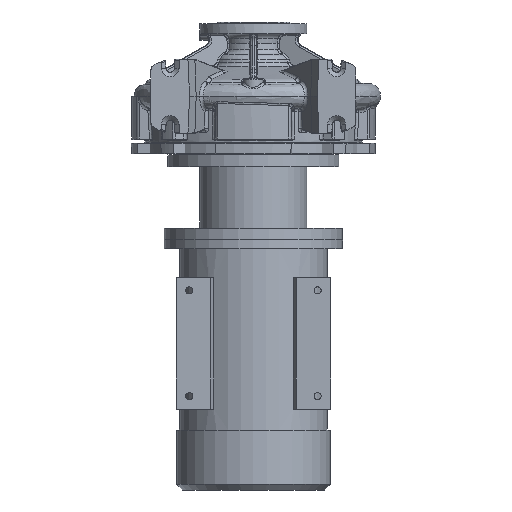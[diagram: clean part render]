
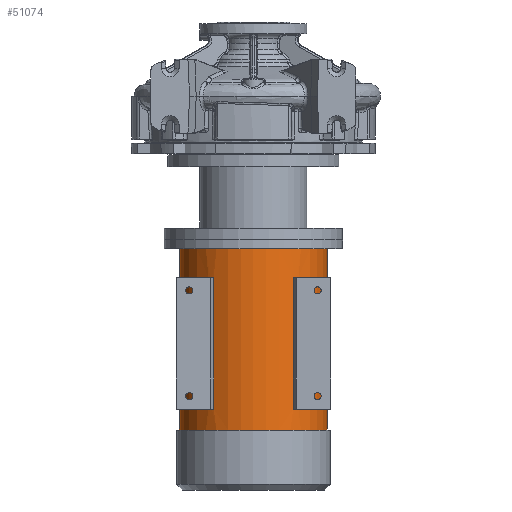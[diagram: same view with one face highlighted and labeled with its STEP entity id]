
A CAD part, front view. The second image highlights one B-rep face of the part: STEP entity #51074.
In plain terms, the highlighted cylindrical face has radius 124.5 mm (diameter 249 mm), a partial arc.
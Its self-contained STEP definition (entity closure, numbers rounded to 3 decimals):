
#714 = ORIENTED_EDGE ( 'NONE', *, *, #42268, .F. ) ;
#723 = CIRCLE ( 'NONE', #773, 124.5 ) ;
#773 = AXIS2_PLACEMENT_3D ( 'NONE', #37849, #9065, #23719 ) ;
#2861 = EDGE_CURVE ( 'NONE', #54181, #51673, #43735, .T. ) ;
#3440 = EDGE_CURVE ( 'NONE', #83826, #39724, #43644, .T. ) ;
#3971 = CARTESIAN_POINT ( 'NONE',  ( 66.829, -105.044, -526.8 ) ) ;
#5617 = VECTOR ( 'NONE', #51337, 1000. ) ;
#6629 = LINE ( 'NONE', #24203, #40235 ) ;
#6678 = CIRCLE ( 'NONE', #81463, 124.5 ) ;
#7306 = VERTEX_POINT ( 'NONE', #64031 ) ;
#8698 = DIRECTION ( 'NONE',  ( 1., 0., 0. ) ) ;
#8785 = ORIENTED_EDGE ( 'NONE', *, *, #34594, .T. ) ;
#9065 = DIRECTION ( 'NONE',  ( 0., 0., -1. ) ) ;
#12143 = CARTESIAN_POINT ( 'NONE',  ( 0., 0., -304.8 ) ) ;
#14235 = ORIENTED_EDGE ( 'NONE', *, *, #84525, .T. ) ;
#14880 = EDGE_CURVE ( 'NONE', #31656, #7306, #723, .T. ) ;
#15574 = AXIS2_PLACEMENT_3D ( 'NONE', #31709, #53414, #60916 ) ;
#16737 = DIRECTION ( 'NONE',  ( 0., 0., -1. ) ) ;
#17322 = FACE_BOUND ( 'NONE', #66344, .T. ) ;
#17542 = CARTESIAN_POINT ( 'NONE',  ( -75.873, -98.709, -662.8 ) ) ;
#19044 = CARTESIAN_POINT ( 'NONE',  ( -66.829, -105.044, -304.8 ) ) ;
#19298 = ORIENTED_EDGE ( 'NONE', *, *, #52634, .F. ) ;
#19448 = VERTEX_POINT ( 'NONE', #36802 ) ;
#19621 = EDGE_CURVE ( 'NONE', #54181, #39724, #86695, .T. ) ;
#22662 = DIRECTION ( 'NONE',  ( 0., 0., -1. ) ) ;
#23719 = DIRECTION ( 'NONE',  ( -1., 0., 0. ) ) ;
#24203 = CARTESIAN_POINT ( 'NONE',  ( 124.5, 0., -662.8 ) ) ;
#24422 = DIRECTION ( 'NONE',  ( 0., 0., -1. ) ) ;
#24948 = DIRECTION ( 'NONE',  ( -1., 0., 0. ) ) ;
#25690 = EDGE_CURVE ( 'NONE', #58406, #19448, #73079, .T. ) ;
#25997 = CARTESIAN_POINT ( 'NONE',  ( 75.873, -98.709, -304.8 ) ) ;
#26201 = DIRECTION ( 'NONE',  ( 0., 0., -1. ) ) ;
#28352 = EDGE_CURVE ( 'NONE', #51673, #83826, #6678, .T. ) ;
#29600 = ORIENTED_EDGE ( 'NONE', *, *, #28352, .T. ) ;
#29945 = CARTESIAN_POINT ( 'NONE',  ( 0., 0., -526.8 ) ) ;
#29969 = CARTESIAN_POINT ( 'NONE',  ( 66.829, -105.044, -304.8 ) ) ;
#31504 = CARTESIAN_POINT ( 'NONE',  ( -66.829, -105.044, -526.8 ) ) ;
#31656 = VERTEX_POINT ( 'NONE', #75203 ) ;
#31709 = CARTESIAN_POINT ( 'NONE',  ( 0., 0., -526.8 ) ) ;
#32691 = AXIS2_PLACEMENT_3D ( 'NONE', #12143, #40350, #33734 ) ;
#32940 = LINE ( 'NONE', #17542, #64388 ) ;
#33641 = DIRECTION ( 'NONE',  ( -1., 0., 0. ) ) ;
#33734 = DIRECTION ( 'NONE',  ( 1., 0., 0. ) ) ;
#34594 = EDGE_CURVE ( 'NONE', #38818, #7306, #67858, .T. ) ;
#35376 = ORIENTED_EDGE ( 'NONE', *, *, #64701, .F. ) ;
#36792 = DIRECTION ( 'NONE',  ( 0., 0., 1. ) ) ;
#36802 = CARTESIAN_POINT ( 'NONE',  ( -75.873, -98.709, -304.8 ) ) ;
#37111 = CARTESIAN_POINT ( 'NONE',  ( -66.829, -105.044, -662.8 ) ) ;
#37796 = DIRECTION ( 'NONE',  ( 0., 0., -1. ) ) ;
#37811 = EDGE_LOOP ( 'NONE', ( #43262, #88069, #29600, #89951 ) ) ;
#37849 = CARTESIAN_POINT ( 'NONE',  ( 0., 0., -561.8 ) ) ;
#38818 = VERTEX_POINT ( 'NONE', #84443 ) ;
#39724 = VERTEX_POINT ( 'NONE', #88891 ) ;
#40235 = VECTOR ( 'NONE', #16737, 1000. ) ;
#40350 = DIRECTION ( 'NONE',  ( 0., 0., -1. ) ) ;
#42268 = EDGE_CURVE ( 'NONE', #56229, #31656, #6629, .T. ) ;
#42399 = CIRCLE ( 'NONE', #45993, 124.5 ) ;
#43064 = EDGE_LOOP ( 'NONE', ( #714, #14235, #8785, #45134 ) ) ;
#43262 = ORIENTED_EDGE ( 'NONE', *, *, #19621, .F. ) ;
#43644 = LINE ( 'NONE', #68899, #57166 ) ;
#43735 = LINE ( 'NONE', #85455, #5617 ) ;
#45134 = ORIENTED_EDGE ( 'NONE', *, *, #14880, .F. ) ;
#45993 = AXIS2_PLACEMENT_3D ( 'NONE', #79460, #22662, #80075 ) ;
#47641 = FACE_BOUND ( 'NONE', #37811, .T. ) ;
#50711 = EDGE_CURVE ( 'NONE', #88543, #72716, #89145, .T. ) ;
#51074 = ADVANCED_FACE ( 'NONE', ( #91276, #47641, #17322 ), #67838, .T. ) ;
#51337 = DIRECTION ( 'NONE',  ( 0., 0., 1. ) ) ;
#51673 = VERTEX_POINT ( 'NONE', #29969 ) ;
#52634 = EDGE_CURVE ( 'NONE', #19448, #72716, #32940, .T. ) ;
#52952 = DIRECTION ( 'NONE',  ( 0., 0., 1. ) ) ;
#53414 = DIRECTION ( 'NONE',  ( 0., 0., 1. ) ) ;
#54181 = VERTEX_POINT ( 'NONE', #3971 ) ;
#55060 = ORIENTED_EDGE ( 'NONE', *, *, #25690, .F. ) ;
#56229 = VERTEX_POINT ( 'NONE', #75718 ) ;
#57166 = VECTOR ( 'NONE', #76086, 1000. ) ;
#58406 = VERTEX_POINT ( 'NONE', #19044 ) ;
#58443 = AXIS2_PLACEMENT_3D ( 'NONE', #69752, #62204, #33641 ) ;
#60916 = DIRECTION ( 'NONE',  ( -1., 0., 0. ) ) ;
#62204 = DIRECTION ( 'NONE',  ( 0., 0., -1. ) ) ;
#64031 = CARTESIAN_POINT ( 'NONE',  ( -124.5, 0., -561.8 ) ) ;
#64388 = VECTOR ( 'NONE', #24422, 1000. ) ;
#64701 = EDGE_CURVE ( 'NONE', #88543, #58406, #87970, .T. ) ;
#65053 = AXIS2_PLACEMENT_3D ( 'NONE', #29945, #37796, #8698 ) ;
#66344 = EDGE_LOOP ( 'NONE', ( #35376, #89710, #19298, #55060 ) ) ;
#67838 = CYLINDRICAL_SURFACE ( 'NONE', #58443, 124.5 ) ;
#67858 = LINE ( 'NONE', #69547, #85761 ) ;
#67973 = CARTESIAN_POINT ( 'NONE',  ( 0., 0., -304.8 ) ) ;
#68899 = CARTESIAN_POINT ( 'NONE',  ( 75.873, -98.709, -662.8 ) ) ;
#68965 = VECTOR ( 'NONE', #36792, 1000. ) ;
#69547 = CARTESIAN_POINT ( 'NONE',  ( -124.5, 0., -662.8 ) ) ;
#69752 = CARTESIAN_POINT ( 'NONE',  ( 0., 0., -662.8 ) ) ;
#72716 = VERTEX_POINT ( 'NONE', #88184 ) ;
#73079 = CIRCLE ( 'NONE', #32691, 124.5 ) ;
#75203 = CARTESIAN_POINT ( 'NONE',  ( 124.5, 0., -561.8 ) ) ;
#75718 = CARTESIAN_POINT ( 'NONE',  ( 124.5, 0., -256.8 ) ) ;
#76086 = DIRECTION ( 'NONE',  ( 0., 0., -1. ) ) ;
#79460 = CARTESIAN_POINT ( 'NONE',  ( 0., 0., -256.8 ) ) ;
#80075 = DIRECTION ( 'NONE',  ( -1., 0., 0. ) ) ;
#81463 = AXIS2_PLACEMENT_3D ( 'NONE', #67973, #52952, #24948 ) ;
#83826 = VERTEX_POINT ( 'NONE', #25997 ) ;
#84443 = CARTESIAN_POINT ( 'NONE',  ( -124.5, 0., -256.8 ) ) ;
#84525 = EDGE_CURVE ( 'NONE', #56229, #38818, #42399, .T. ) ;
#85455 = CARTESIAN_POINT ( 'NONE',  ( 66.829, -105.044, -662.8 ) ) ;
#85761 = VECTOR ( 'NONE', #26201, 1000. ) ;
#86695 = CIRCLE ( 'NONE', #15574, 124.5 ) ;
#87970 = LINE ( 'NONE', #37111, #68965 ) ;
#88069 = ORIENTED_EDGE ( 'NONE', *, *, #2861, .T. ) ;
#88184 = CARTESIAN_POINT ( 'NONE',  ( -75.873, -98.709, -526.8 ) ) ;
#88543 = VERTEX_POINT ( 'NONE', #31504 ) ;
#88891 = CARTESIAN_POINT ( 'NONE',  ( 75.873, -98.709, -526.8 ) ) ;
#89145 = CIRCLE ( 'NONE', #65053, 124.5 ) ;
#89710 = ORIENTED_EDGE ( 'NONE', *, *, #50711, .T. ) ;
#89951 = ORIENTED_EDGE ( 'NONE', *, *, #3440, .T. ) ;
#91276 = FACE_OUTER_BOUND ( 'NONE', #43064, .T. ) ;
